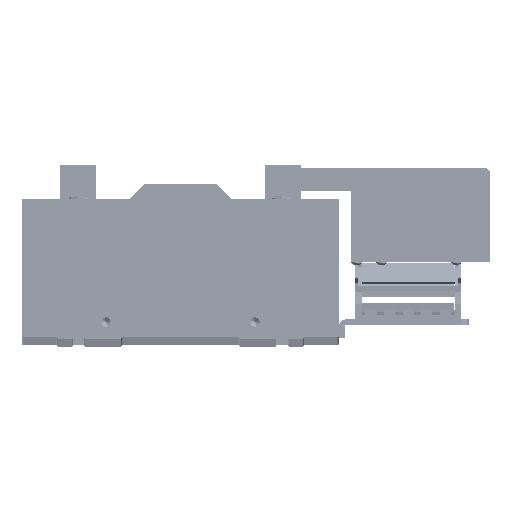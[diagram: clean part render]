
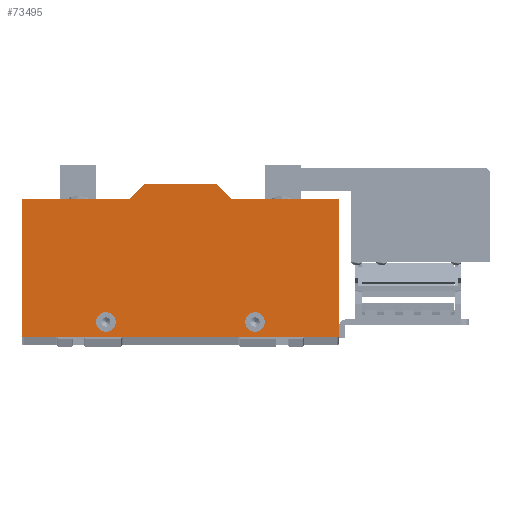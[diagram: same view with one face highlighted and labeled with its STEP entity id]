
A CAD part, top view. The second image highlights one B-rep face of the part: STEP entity #73495.
In plain terms, the highlighted planar face has unit normal (0, 0, 1).
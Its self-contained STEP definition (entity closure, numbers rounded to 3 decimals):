
#71805 = VERTEX_POINT ( 'NONE', #73336 ) ;
#72170 = EDGE_CURVE ( 'NONE', #72181, #72174, #73842, .T. ) ;
#72174 = VERTEX_POINT ( 'NONE', #73831 ) ;
#72181 = VERTEX_POINT ( 'NONE', #73806 ) ;
#72436 = VERTEX_POINT ( 'NONE', #74324 ) ;
#72443 = EDGE_CURVE ( 'NONE', #72436, #72447, #74454, .T. ) ;
#72447 = VERTEX_POINT ( 'NONE', #74445 ) ;
#72575 = EDGE_CURVE ( 'NONE', #72709, #71805, #74637, .T. ) ;
#72661 = EDGE_CURVE ( 'NONE', #72798, #72716, #74790, .T. ) ;
#72709 = VERTEX_POINT ( 'NONE', #74988 ) ;
#72716 = VERTEX_POINT ( 'NONE', #74986 ) ;
#72796 = EDGE_CURVE ( 'NONE', #71805, #72798, #75004, .T. ) ;
#72798 = VERTEX_POINT ( 'NONE', #75133 ) ;
#72855 = EDGE_CURVE ( 'NONE', #72174, #72181, #75293, .T. ) ;
#73336 = CARTESIAN_POINT ( 'NONE',  ( -85., -37., 9.525 ) ) ;
#73349 = VERTEX_POINT ( 'NONE', #76403 ) ;
#73376 = EDGE_CURVE ( 'NONE', #73528, #73349, #76464, .T. ) ;
#73412 = EDGE_CURVE ( 'NONE', #73525, #73460, #76544, .T. ) ;
#73460 = VERTEX_POINT ( 'NONE', #76614 ) ;
#73495 = ADVANCED_FACE ( 'NONE', ( #76690, #76688, #76686 ), #76681, .T. ) ;
#73498 = EDGE_LOOP ( 'NONE', ( #73499, #73798 ) ) ;
#73499 = ORIENTED_EDGE ( 'NONE', *, *, #72855, .F. ) ;
#73504 = EDGE_CURVE ( 'NONE', #73349, #72709, #76668, .T. ) ;
#73524 = EDGE_CURVE ( 'NONE', #72716, #73525, #76811, .T. ) ;
#73525 = VERTEX_POINT ( 'NONE', #76790 ) ;
#73528 = VERTEX_POINT ( 'NONE', #76787 ) ;
#73539 = EDGE_CURVE ( 'NONE', #73460, #73528, #76778, .T. ) ;
#73702 = ORIENTED_EDGE ( 'NONE', *, *, #73376, .T. ) ;
#73709 = ORIENTED_EDGE ( 'NONE', *, *, #72443, .F. ) ;
#73729 = ORIENTED_EDGE ( 'NONE', *, *, #73412, .T. ) ;
#73730 = ORIENTED_EDGE ( 'NONE', *, *, #73539, .T. ) ;
#73749 = ORIENTED_EDGE ( 'NONE', *, *, #73504, .T. ) ;
#73752 = ORIENTED_EDGE ( 'NONE', *, *, #72796, .T. ) ;
#73788 = ORIENTED_EDGE ( 'NONE', *, *, #72575, .T. ) ;
#73794 = EDGE_LOOP ( 'NONE', ( #73846, #73709 ) ) ;
#73798 = ORIENTED_EDGE ( 'NONE', *, *, #72170, .F. ) ;
#73806 = CARTESIAN_POINT ( 'NONE',  ( -45.25, -29., 9.525 ) ) ;
#73814 = ORIENTED_EDGE ( 'NONE', *, *, #72661, .T. ) ;
#73815 = ORIENTED_EDGE ( 'NONE', *, *, #73524, .T. ) ;
#73828 = EDGE_LOOP ( 'NONE', ( #73788, #73752, #73814, #73815, #73729, #73730, #73702, #73749 ) ) ;
#73831 = CARTESIAN_POINT ( 'NONE',  ( -34.75, -29., 9.525 ) ) ;
#73835 = DIRECTION ( 'NONE',  ( 1., 0., 0. ) ) ;
#73836 = DIRECTION ( 'NONE',  ( 0., 0., 1. ) ) ;
#73838 = CARTESIAN_POINT ( 'NONE',  ( -40., -29., 9.525 ) ) ;
#73840 = AXIS2_PLACEMENT_3D ( 'NONE', #73838, #73836, #73835 ) ;
#73842 = CIRCLE ( 'NONE', #73840, 5.25 ) ;
#73846 = ORIENTED_EDGE ( 'NONE', *, *, #73925, .F. ) ;
#73925 = EDGE_CURVE ( 'NONE', #72447, #72436, #77653, .T. ) ;
#74324 = CARTESIAN_POINT ( 'NONE',  ( 34.75, -29., 9.525 ) ) ;
#74445 = CARTESIAN_POINT ( 'NONE',  ( 45.25, -29., 9.525 ) ) ;
#74447 = DIRECTION ( 'NONE',  ( 1., 0., 0. ) ) ;
#74448 = DIRECTION ( 'NONE',  ( 0., 0., 1. ) ) ;
#74449 = CARTESIAN_POINT ( 'NONE',  ( 40., -29., 9.525 ) ) ;
#74452 = AXIS2_PLACEMENT_3D ( 'NONE', #74449, #74448, #74447 ) ;
#74454 = CIRCLE ( 'NONE', #74452, 5.25 ) ;
#74632 = DIRECTION ( 'NONE',  ( 0., -1., 0. ) ) ;
#74633 = VECTOR ( 'NONE', #74632, 1000. ) ;
#74635 = CARTESIAN_POINT ( 'NONE',  ( -85., 37., 9.525 ) ) ;
#74637 = LINE ( 'NONE', #74635, #74633 ) ;
#74784 = DIRECTION ( 'NONE',  ( 0., 1., 0. ) ) ;
#74785 = VECTOR ( 'NONE', #74784, 1000. ) ;
#74787 = CARTESIAN_POINT ( 'NONE',  ( 85., 37., 9.525 ) ) ;
#74790 = LINE ( 'NONE', #74787, #74785 ) ;
#74986 = CARTESIAN_POINT ( 'NONE',  ( 85., 37., 9.525 ) ) ;
#74988 = CARTESIAN_POINT ( 'NONE',  ( -85., 37., 9.525 ) ) ;
#75004 = LINE ( 'NONE', #75146, #75145 ) ;
#75133 = CARTESIAN_POINT ( 'NONE',  ( 85., -37., 9.525 ) ) ;
#75143 = DIRECTION ( 'NONE',  ( 1., 0., 0. ) ) ;
#75145 = VECTOR ( 'NONE', #75143, 1000. ) ;
#75146 = CARTESIAN_POINT ( 'NONE',  ( -85., -37., 9.525 ) ) ;
#75287 = DIRECTION ( 'NONE',  ( 1., 0., 0. ) ) ;
#75289 = DIRECTION ( 'NONE',  ( 0., 0., 1. ) ) ;
#75290 = CARTESIAN_POINT ( 'NONE',  ( -40., -29., 9.525 ) ) ;
#75292 = AXIS2_PLACEMENT_3D ( 'NONE', #75290, #75289, #75287 ) ;
#75293 = CIRCLE ( 'NONE', #75292, 5.25 ) ;
#76403 = CARTESIAN_POINT ( 'NONE',  ( -27.5, 37., 9.525 ) ) ;
#76458 = DIRECTION ( 'NONE',  ( -0.707, -0.707, 0. ) ) ;
#76460 = VECTOR ( 'NONE', #76458, 1000. ) ;
#76462 = CARTESIAN_POINT ( 'NONE',  ( -27.5, 37., 9.525 ) ) ;
#76464 = LINE ( 'NONE', #76462, #76460 ) ;
#76540 = DIRECTION ( 'NONE',  ( -0.707, 0.707, 0. ) ) ;
#76541 = VECTOR ( 'NONE', #76540, 1000. ) ;
#76543 = CARTESIAN_POINT ( 'NONE',  ( 19.5, 45., 9.525 ) ) ;
#76544 = LINE ( 'NONE', #76543, #76541 ) ;
#76614 = CARTESIAN_POINT ( 'NONE',  ( 19.5, 45., 9.525 ) ) ;
#76666 = CARTESIAN_POINT ( 'NONE',  ( -85., 37., 9.525 ) ) ;
#76668 = LINE ( 'NONE', #76666, #76819 ) ;
#76674 = DIRECTION ( 'NONE',  ( 1., 0., 0. ) ) ;
#76676 = DIRECTION ( 'NONE',  ( 0., 0., 1. ) ) ;
#76678 = CARTESIAN_POINT ( 'NONE',  ( -85., 37., 9.525 ) ) ;
#76679 = AXIS2_PLACEMENT_3D ( 'NONE', #76678, #76676, #76674 ) ;
#76681 = PLANE ( 'NONE',  #76679 ) ;
#76686 = FACE_OUTER_BOUND ( 'NONE', #73828, .T. ) ;
#76688 = FACE_BOUND ( 'NONE', #73794, .T. ) ;
#76690 = FACE_BOUND ( 'NONE', #73498, .T. ) ;
#76773 = DIRECTION ( 'NONE',  ( -1., 0., 0. ) ) ;
#76775 = VECTOR ( 'NONE', #76773, 1000. ) ;
#76777 = CARTESIAN_POINT ( 'NONE',  ( -19.5, 45., 9.525 ) ) ;
#76778 = LINE ( 'NONE', #76777, #76775 ) ;
#76787 = CARTESIAN_POINT ( 'NONE',  ( -19.5, 45., 9.525 ) ) ;
#76790 = CARTESIAN_POINT ( 'NONE',  ( 27.5, 37., 9.525 ) ) ;
#76793 = DIRECTION ( 'NONE',  ( -1., 0., 0. ) ) ;
#76795 = VECTOR ( 'NONE', #76793, 1000. ) ;
#76797 = CARTESIAN_POINT ( 'NONE',  ( 27.5, 37., 9.525 ) ) ;
#76811 = LINE ( 'NONE', #76797, #76795 ) ;
#76817 = DIRECTION ( 'NONE',  ( -1., 0., 0. ) ) ;
#76819 = VECTOR ( 'NONE', #76817, 1000. ) ;
#77648 = DIRECTION ( 'NONE',  ( 1., 0., 0. ) ) ;
#77649 = DIRECTION ( 'NONE',  ( 0., 0., 1. ) ) ;
#77651 = CARTESIAN_POINT ( 'NONE',  ( 40., -29., 9.525 ) ) ;
#77652 = AXIS2_PLACEMENT_3D ( 'NONE', #77651, #77649, #77648 ) ;
#77653 = CIRCLE ( 'NONE', #77652, 5.25 ) ;
